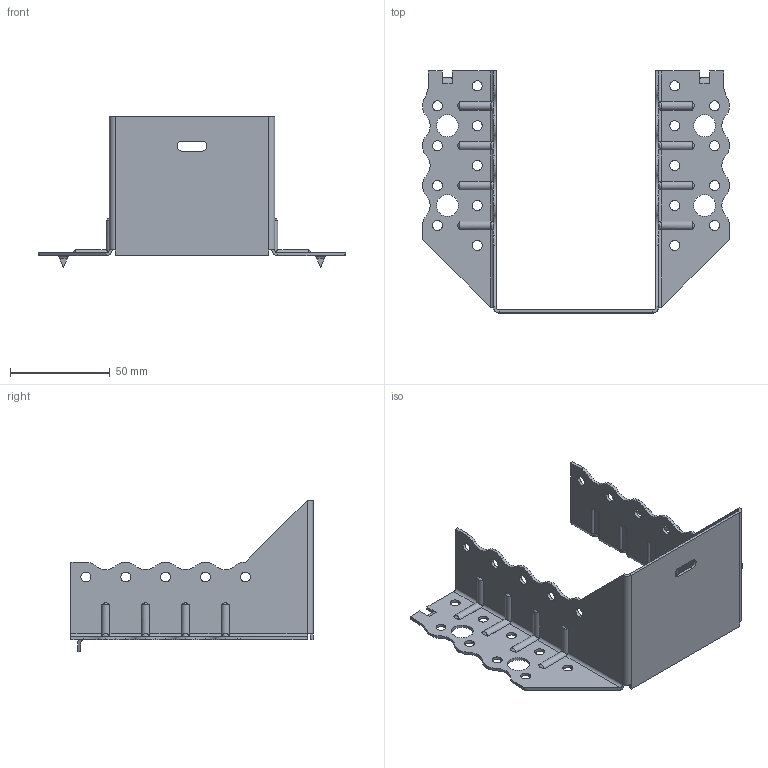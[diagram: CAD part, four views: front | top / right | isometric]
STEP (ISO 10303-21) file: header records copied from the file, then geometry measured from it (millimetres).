
FILE_DESCRIPTION (( 'STEP AP203' ), '1' );
FILE_NAME ('30505TOP.STEP', '2021-04-07T13:35:33', ( '' ), ( '' ), 'SwSTEP 2.0', 'SolidWorks 2013', '' );
FILE_SCHEMA (( 'CONFIG_CONTROL_DESIGN' ));
Length unit declared in the file: millimetre
Products named in the file (1): 30505TOP
Bounding box: 154 x 121.5 x 76 mm (x, y, z)
Volume: 32316.2 mm3; surface area: 46031.9 mm2
Topology: 1 solids, 1 shells, 359 faces, 963 edges, 606 vertices
Faces by surface type: cylinder 221, plane 106, torus 16, bspline 16
Entity records: 13198 total; most frequent: CARTESIAN_POINT 4091, ORIENTED_EDGE 1926, DIRECTION 1865, EDGE_CURVE 963, AXIS2_PLACEMENT_3D 678, VERTEX_POINT 606, VECTOR 509, LINE 509
